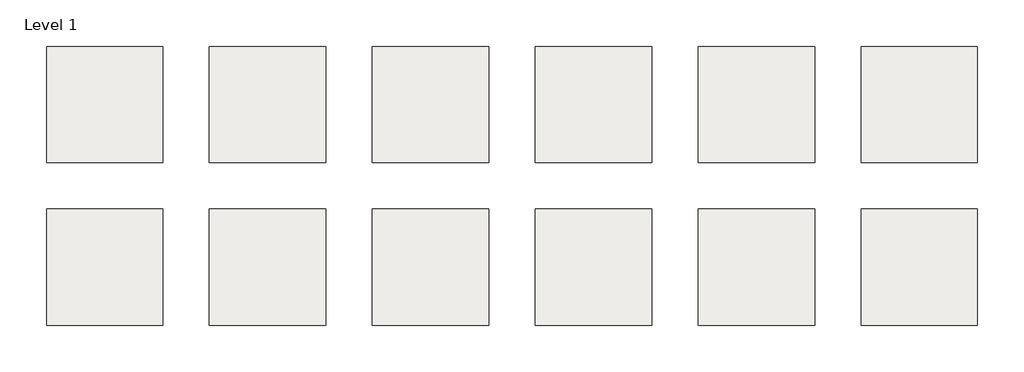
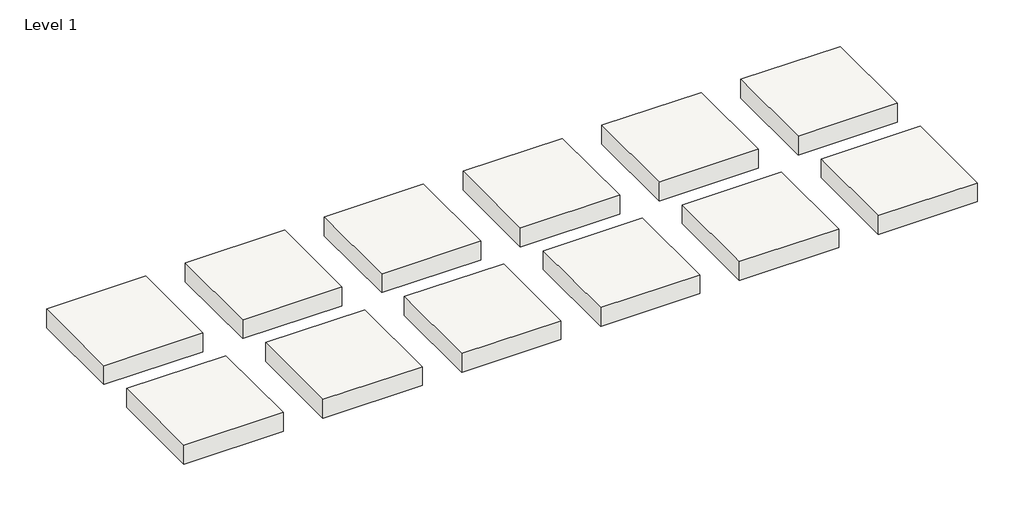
# One storey: 12 slabs.
"""IFC4 building model written with IfcOpenShell, lengths in millimetres."""

from ifc_helpers import new_model, si_unit, frame, origin, place, context, project, spatial, polyline, outline, extrude, element, save

model = new_model("IFC4")

# Units and contexts
model_context = context("Model", 3, world=origin())
ifc_project = project(units=[si_unit("LENGTHUNIT", "METRE", prefix="MILLI")], contexts=[model_context])

# Site, building, storey
site = spatial("IfcSite", under=ifc_project)
building = spatial("IfcBuilding", under=site)
storey = spatial("IfcBuildingStorey", under=building, Name="Level 1", Elevation=0.0)

# Slabs
placement = place(None, origin())
element("IfcSlab", 1, ObjectType="Armstrong Flooring_Safety Zone™ Sheet_5A256_spice white", at=placement, inside=storey, context=model_context, shape_type="SweptSolid", body=[
    extrude(outline(polyline([(1219.2, 6400.8), (1219.2, 4876.8), (-304.8, 4876.8), (-304.8, 6400.8), (1219.2, 6400.8)])), frame((0.0, 0.0, -304.8), z_axis=(0.0, 0.0, 1.0), x_axis=(1.0, 0.0, 0.0)), (0.0, 0.0, 1.0), 304.8),
])
element("IfcSlab", 2, ObjectType="Armstrong Flooring_Safety Zone™ Sheet_5A272_darling grey", at=placement, inside=storey, context=model_context, shape_type="SweptSolid", body=[
    extrude(outline(polyline([(3352.8, 6400.8), (3352.8, 4876.8), (1828.8, 4876.8), (1828.8, 6400.8), (3352.8, 6400.8)])), frame((0.0, 0.0, -304.8), z_axis=(0.0, 0.0, 1.0), x_axis=(1.0, 0.0, 0.0)), (0.0, 0.0, 1.0), 304.8),
])
element("IfcSlab", 3, ObjectType="Armstrong Flooring_Safety Zone™ Sheet_5A203_parkland pine", at=placement, inside=storey, context=model_context, shape_type="SweptSolid", body=[
    extrude(outline(polyline([(5486.4, 6400.8), (5486.4, 4876.8), (3962.4, 4876.8), (3962.4, 6400.8), (5486.4, 6400.8)])), frame((0.0, 0.0, -304.8), z_axis=(0.0, 0.0, 1.0), x_axis=(1.0, 0.0, 0.0)), (0.0, 0.0, 1.0), 304.8),
])
element("IfcSlab", 4, ObjectType="Armstrong Flooring_Safety Zone™ Sheet_5A207_tanami", at=placement, inside=storey, context=model_context, shape_type="SweptSolid", body=[
    extrude(outline(polyline([(7620.0, 6400.8), (7620.0, 4876.8), (6096.0, 4876.8), (6096.0, 6400.8), (7620.0, 6400.8)])), frame((0.0, 0.0, -304.8), z_axis=(0.0, 0.0, 1.0), x_axis=(1.0, 0.0, 0.0)), (0.0, 0.0, 1.0), 304.8),
])
element("IfcSlab", 5, ObjectType="Armstrong Flooring_Safety Zone™ Sheet_5A220_collins grey", at=placement, inside=storey, context=model_context, shape_type="SweptSolid", body=[
    extrude(outline(polyline([(9753.6, 6400.8), (9753.6, 4876.8), (8229.6, 4876.8), (8229.6, 6400.8), (9753.6, 6400.8)])), frame((0.0, 0.0, -304.8), z_axis=(0.0, 0.0, 1.0), x_axis=(1.0, 0.0, 0.0)), (0.0, 0.0, 1.0), 304.8),
])
element("IfcSlab", 6, ObjectType="Armstrong Flooring_Safety Zone™ Sheet_5A221_cloudy", at=placement, inside=storey, context=model_context, shape_type="SweptSolid", body=[
    extrude(outline(polyline([(11887.2, 6400.8), (11887.2, 4876.8), (10363.2, 4876.8), (10363.2, 6400.8), (11887.2, 6400.8)])), frame((0.0, 0.0, -304.8), z_axis=(0.0, 0.0, 1.0), x_axis=(1.0, 0.0, 0.0)), (0.0, 0.0, 1.0), 304.8),
])
element("IfcSlab", 7, ObjectType="Armstrong Flooring_Safety Zone™ Sheet_5A249_bell", at=placement, inside=storey, context=model_context, shape_type="SweptSolid", body=[
    extrude(outline(polyline([(1219.2, 4267.2), (1219.2, 2743.2), (-304.8, 2743.2), (-304.8, 4267.2), (1219.2, 4267.2)])), frame((0.0, 0.0, -304.8), z_axis=(0.0, 0.0, 1.0), x_axis=(1.0, 0.0, 0.0)), (0.0, 0.0, 1.0), 304.8),
])
element("IfcSlab", 8, ObjectType="Armstrong Flooring_Safety Zone™ Sheet_5A261_ironbark", at=placement, inside=storey, context=model_context, shape_type="SweptSolid", body=[
    extrude(outline(polyline([(3352.8, 4267.2), (3352.8, 2743.2), (1828.8, 2743.2), (1828.8, 4267.2), (3352.8, 4267.2)])), frame((0.0, 0.0, -304.8), z_axis=(0.0, 0.0, 1.0), x_axis=(1.0, 0.0, 0.0)), (0.0, 0.0, 1.0), 304.8),
])
element("IfcSlab", 9, ObjectType="Armstrong Flooring_Safety Zone™ Sheet_5A262_black opal", at=placement, inside=storey, context=model_context, shape_type="SweptSolid", body=[
    extrude(outline(polyline([(5486.4, 4267.2), (5486.4, 2743.2), (3962.4, 2743.2), (3962.4, 4267.2), (5486.4, 4267.2)])), frame((0.0, 0.0, -304.8), z_axis=(0.0, 0.0, 1.0), x_axis=(1.0, 0.0, 0.0)), (0.0, 0.0, 1.0), 304.8),
])
element("IfcSlab", 10, ObjectType="Armstrong Flooring_Safety Zone™ Sheet_5A276_sterling grey", at=placement, inside=storey, context=model_context, shape_type="SweptSolid", body=[
    extrude(outline(polyline([(7620.0, 4267.2), (7620.0, 2743.2), (6096.0, 2743.2), (6096.0, 4267.2), (7620.0, 4267.2)])), frame((0.0, 0.0, -304.8), z_axis=(0.0, 0.0, 1.0), x_axis=(1.0, 0.0, 0.0)), (0.0, 0.0, 1.0), 304.8),
])
element("IfcSlab", 11, ObjectType="Armstrong Flooring_Safety Zone™ Sheet_5A291_mallee wheat", at=placement, inside=storey, context=model_context, shape_type="SweptSolid", body=[
    extrude(outline(polyline([(9753.6, 4267.2), (9753.6, 2743.2), (8229.6, 2743.2), (8229.6, 4267.2), (9753.6, 4267.2)])), frame((0.0, 0.0, -304.8), z_axis=(0.0, 0.0, 1.0), x_axis=(1.0, 0.0, 0.0)), (0.0, 0.0, 1.0), 304.8),
])
element("IfcSlab", 12, ObjectType="Armstrong Flooring_Safety Zone™ Sheet_5A298_maslin blue", at=placement, inside=storey, context=model_context, shape_type="SweptSolid", body=[
    extrude(outline(polyline([(11887.2, 4267.2), (11887.2, 2743.2), (10363.2, 2743.2), (10363.2, 4267.2), (11887.2, 4267.2)])), frame((0.0, 0.0, -304.8), z_axis=(0.0, 0.0, 1.0), x_axis=(1.0, 0.0, 0.0)), (0.0, 0.0, 1.0), 304.8),
])

save(model, "model.ifc")
